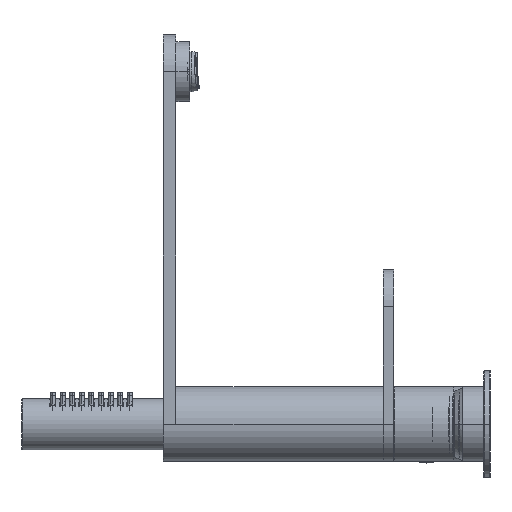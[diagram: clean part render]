
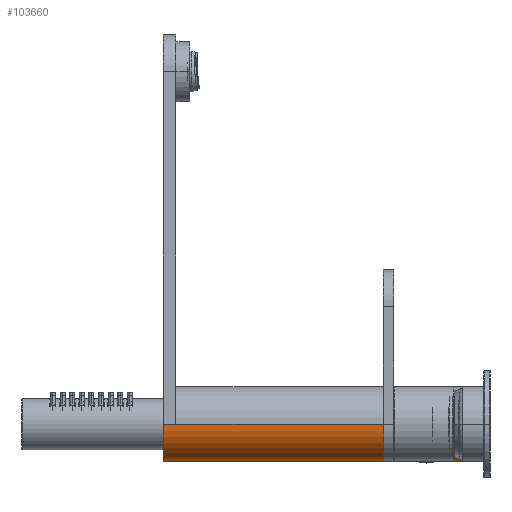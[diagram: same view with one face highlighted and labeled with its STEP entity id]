
A CAD part, left-side view. The second image highlights one B-rep face of the part: STEP entity #103660.
In plain terms, the highlighted cylindrical face has radius 17.5 mm (diameter 35 mm), a partial arc.
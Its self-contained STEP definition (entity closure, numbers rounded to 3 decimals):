
#26061=DIRECTION('',(0.,-1.,0.));
#26062=VECTOR('',#26061,144.);
#26063=CARTESIAN_POINT('',(132.5,147.,0.));
#26064=LINE('',#26063,#26062);
#26065=DIRECTION('',(0.,-1.,0.));
#26066=VECTOR('',#26065,144.);
#26067=CARTESIAN_POINT('',(167.5,147.,0.));
#26068=LINE('',#26067,#26066);
#26073=DIRECTION('',(0.,-1.,0.));
#26074=VECTOR('',#26073,6.);
#26075=CARTESIAN_POINT('',(167.5,153.,0.));
#26076=LINE('',#26075,#26074);
#26081=DIRECTION('',(0.,1.,0.));
#26082=VECTOR('',#26081,6.);
#26083=CARTESIAN_POINT('',(132.5,147.,0.));
#26084=LINE('',#26083,#26082);
#26085=CARTESIAN_POINT('',(150.,153.,0.));
#26086=DIRECTION('',(0.,1.,0.));
#26087=DIRECTION('',(1.,0.,0.));
#26088=AXIS2_PLACEMENT_3D('',#26085,#26086,#26087);
#26118=CARTESIAN_POINT('',(150.,3.,0.));
#26119=DIRECTION('',(0.,-1.,0.));
#26120=DIRECTION('',(-1.,0.,0.));
#26121=AXIS2_PLACEMENT_3D('',#26118,#26119,#26120);
#72086=CARTESIAN_POINT('',(167.5,3.,0.));
#72087=CARTESIAN_POINT('',(132.5,3.,0.));
#72088=VERTEX_POINT('',#72086);
#72089=VERTEX_POINT('',#72087);
#72104=CARTESIAN_POINT('',(167.5,147.,0.));
#72105=CARTESIAN_POINT('',(132.5,147.,0.));
#72106=VERTEX_POINT('',#72104);
#72107=VERTEX_POINT('',#72105);
#72126=CARTESIAN_POINT('',(167.5,153.,0.));
#72127=CARTESIAN_POINT('',(132.5,153.,0.));
#72128=VERTEX_POINT('',#72126);
#72129=VERTEX_POINT('',#72127);
#103643=CARTESIAN_POINT('',(150.,154.2,0.));
#103644=DIRECTION('',(0.,-1.,0.));
#103645=DIRECTION('',(1.,0.,0.));
#103646=AXIS2_PLACEMENT_3D('',#103643,#103644,#103645);
#103647=CYLINDRICAL_SURFACE('',#103646,17.5);
#103649=ORIENTED_EDGE('',*,*,#103648,.F.);
#103651=ORIENTED_EDGE('',*,*,#103650,.T.);
#103653=ORIENTED_EDGE('',*,*,#103652,.F.);
#103654=ORIENTED_EDGE('',*,*,#103638,.T.);
#103656=ORIENTED_EDGE('',*,*,#103655,.T.);
#103657=ORIENTED_EDGE('',*,*,#103634,.F.);
#103658=EDGE_LOOP('',(#103649,#103651,#103653,#103654,#103656,#103657));
#103659=FACE_OUTER_BOUND('',#103658,.F.);
#103660=ADVANCED_FACE('',(#103659),#103647,.T.);
#26089=CIRCLE('',#26088,17.5);
#26122=CIRCLE('',#26121,17.5);
#103634=EDGE_CURVE('',#72106,#72088,#26068,.T.);
#103638=EDGE_CURVE('',#72107,#72089,#26064,.T.);
#103648=EDGE_CURVE('',#72128,#72106,#26076,.T.);
#103650=EDGE_CURVE('',#72128,#72129,#26089,.T.);
#103652=EDGE_CURVE('',#72107,#72129,#26084,.T.);
#103655=EDGE_CURVE('',#72089,#72088,#26122,.T.);
